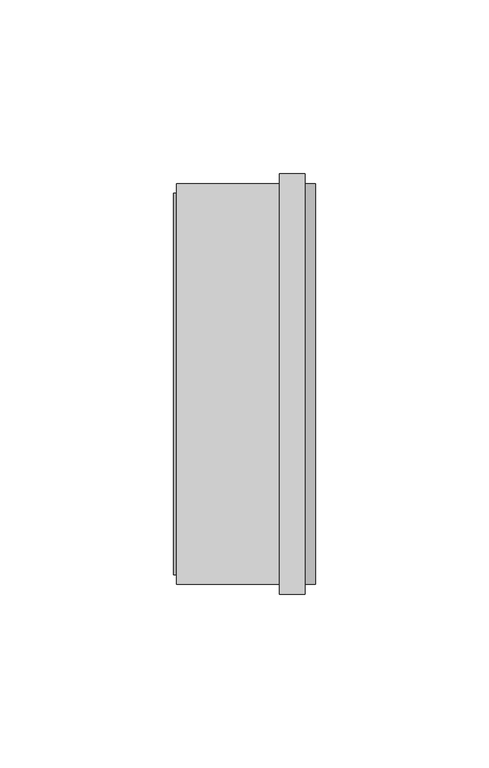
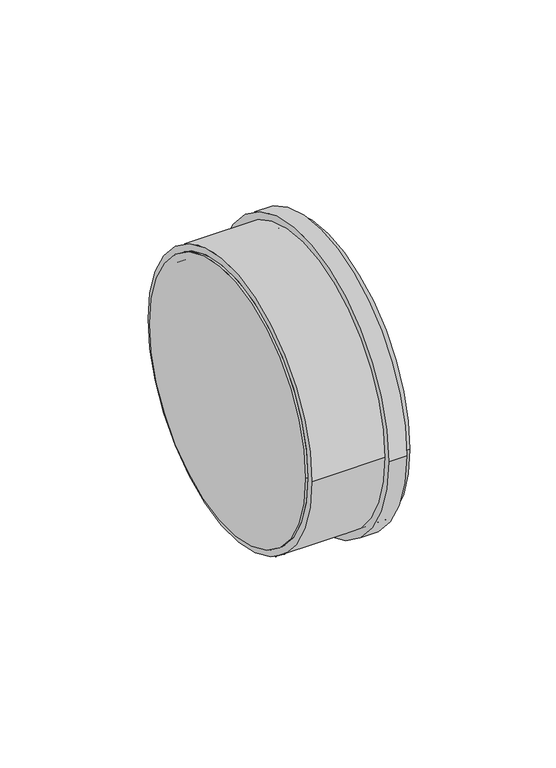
"""IFC4 building model written with IfcOpenShell, lengths in millimetres: pipe fitting geometry, Superdrain HTM-Plug : Superdrain HTM-Plug."""

from ifc_helpers import new_model, si_unit, point, frame, origin, origin_2d, place, context, project, spatial, polyline, circle_curve, trimmed, segment, composite_curve, outline, extrude, source, transform, mapped, element, save
from ifc_brep_helpers import plane_surface, cylinder_surface, revolved_surface, advanced_brep


def pipe_fitting_74035c22(model_context):
    return source(origin(), model_context, "Body", "SolidModel", [
        extrude(outline(composite_curve([segment(trimmed(circle_curve(origin_2d(), 57.75), [point((57.75, 0.0))], [point((-57.75, 0.0))], False, "CARTESIAN"), True, "CONTINUOUS"), segment(trimmed(circle_curve(origin_2d(), 57.75), [point((-57.75, 0.0))], [point((57.75, 0.0))], False, "CARTESIAN"), True, "CONTINUOUS")], self_intersect=False), holes=[composite_curve([segment(trimmed(circle_curve(origin_2d(), 55.0), [point((55.0, 0.0))], [point((-55.0, 0.0))], True, "CARTESIAN"), True, "CONTINUOUS"), segment(trimmed(circle_curve(origin_2d(), 55.0), [point((-55.0, 0.0))], [point((55.0, 0.0))], True, "CARTESIAN"), True, "CONTINUOUS")], self_intersect=False)]), frame((0.0, 0.0, 0.0), z_axis=(1.0, 0.0, 0.0), x_axis=(0.0, 1.0, 0.0)), (0.0, 0.0, 1.0), 37.0),
        extrude(outline(composite_curve([segment(trimmed(circle_curve(origin_2d(), 60.6375), [point((60.6375, 0.0))], [point((-60.6375, 0.0))], False, "CARTESIAN"), True, "CONTINUOUS"), segment(trimmed(circle_curve(origin_2d(), 60.6375), [point((-60.6375, 0.0))], [point((60.6375, 0.0))], False, "CARTESIAN"), True, "CONTINUOUS")], self_intersect=False), holes=[composite_curve([segment(trimmed(circle_curve(origin_2d(), 55.0), [point((55.0, 0.0))], [point((-55.0, 0.0))], True, "CARTESIAN"), True, "CONTINUOUS"), segment(trimmed(circle_curve(origin_2d(), 55.0), [point((-55.0, 0.0))], [point((55.0, 0.0))], True, "CARTESIAN"), True, "CONTINUOUS")], self_intersect=False)]), frame((29.6, 0.0, 0.0), z_axis=(1.0, 0.0, 0.0), x_axis=(0.0, 1.0, 0.0)), (0.0, 0.0, 1.0), 7.4),
        extrude(outline(composite_curve([segment(trimmed(circle_curve(origin_2d(), 55.0), [point((55.0, 0.0))], [point((-55.0, 0.0))], False, "CARTESIAN"), True, "CONTINUOUS"), segment(trimmed(circle_curve(origin_2d(), 55.0), [point((-55.0, 0.0))], [point((55.0, 0.0))], False, "CARTESIAN"), True, "CONTINUOUS")], self_intersect=False)), frame((-1.0, 0.0, 0.0), z_axis=(1.0, 0.0, 0.0), x_axis=(0.0, 1.0, 0.0)), (0.0, 0.0, 1.0), 1.0),
        advanced_brep(
        [(0.0, -55.0, 0.0), (0.0, 55.0, 0.0), (0.0, 52.25, 0.0), (0.0, -52.25, 0.0), (40.0, -55.0, 0.0), (40.0, 55.0, 0.0), (37.0, -52.25, 0.0), (37.0, 52.25, 0.0)],
        [
            (0, 1, circle_curve(frame((0.0, 0.0, 0.0), z_axis=(-1.0, 0.0, 0.0), x_axis=(0.0, 1.0, 0.0)), 55.0)),
            (1, 0, circle_curve(frame((0.0, 0.0, 0.0), z_axis=(-1.0, 0.0, 0.0), x_axis=(0.0, 1.0, 0.0)), 55.0)),
            (2, 3, circle_curve(frame((0.0, 0.0, 0.0), z_axis=(1.0, 0.0, 0.0), x_axis=(0.0, 1.0, 0.0)), 52.25)),
            (3, 2, circle_curve(frame((0.0, 0.0, 0.0), z_axis=(1.0, 0.0, 0.0), x_axis=(0.0, 1.0, 0.0)), 52.25)),
            (4, 5, circle_curve(frame((40.0, 0.0, 0.0), z_axis=(1.0, 0.0, 0.0), x_axis=(0.0, 1.0, 0.0)), 55.0)),
            (5, 4, circle_curve(frame((40.0, 0.0, 0.0), z_axis=(1.0, 0.0, 0.0), x_axis=(0.0, 1.0, 0.0)), 55.0)),
            (0, 4),
            (5, 1),
            (6, 7, circle_curve(frame((37.0, 0.0, 0.0), z_axis=(-1.0, 0.0, 0.0), x_axis=(0.0, 1.0, 0.0)), 52.25)),
            (7, 6, circle_curve(frame((37.0, 0.0, 0.0), z_axis=(-1.0, 0.0, 0.0), x_axis=(0.0, 1.0, 0.0)), 52.25)),
            (6, 3),
            (2, 7),
        ],
        [
            plane_surface(frame((0.0, 0.0, 0.0), z_axis=(-1.0, 0.0, 0.0), x_axis=(0.0, 0.0, 1.0))),
            plane_surface(frame((40.0, 0.0, 0.0), z_axis=(1.0, 0.0, 0.0), x_axis=(0.0, 0.0, 1.0))),
            cylinder_surface(frame((0.0, 0.0, 0.0), z_axis=(-1.0, 0.0, 0.0), x_axis=(0.0, 1.0, 0.0)), 55.0),
            plane_surface(frame((37.0, 0.0, 0.0), z_axis=(-1.0, 0.0, 0.0), x_axis=(0.0, 0.0, 1.0))),
            revolved_surface(polyline([(0.0, 52.25, 0.0), (37.0, 52.25, 0.0)]), (-3.0, 0.0, 0.0), (-1.0, 0.0, 0.0)),
        ],
        [
            (0, [[1, 2], [3, 4]]),
            (1, [[5, 6]]),
            (2, [[-1, 7, -6, 8]]),
            (2, [[-2, -8, -5, -7]]),
            (3, [[9, 10]]),
            (4, [[-9, 11, -3, 12]]),
            (4, [[-10, -12, -4, -11]]),
        ],
    ),
        extrude(outline(composite_curve([segment(trimmed(circle_curve(origin_2d(), 57.75), [point((-57.75, 0.0))], [point((57.75, 0.0))], False, "CARTESIAN"), True, "CONTINUOUS"), segment(trimmed(circle_curve(origin_2d(), 57.75), [point((57.75, 0.0))], [point((-57.75, 0.0))], False, "CARTESIAN"), True, "CONTINUOUS")], self_intersect=False)), frame((37.0, 0.0, 0.0), z_axis=(1.0, 0.0, 0.0), x_axis=(0.0, 1.0, 0.0)), (0.0, 0.0, 1.0), 3.0),
    ])


if __name__ == "__main__":
    model = new_model("IFC4")
    model_context = context("Model", 3, world=origin())
    ifc_project = project(units=[si_unit("LENGTHUNIT", "METRE", prefix="MILLI")], contexts=[model_context])
    site = spatial("IfcSite", under=ifc_project)
    building = spatial("IfcBuilding", under=site)
    placement = place(None, origin())
    pipe_fitting_shape = pipe_fitting_74035c22(model_context)
    element("IfcPipeFitting", 1, ObjectType="Superdrain HTM-Plug : Superdrain HTM-Plug", at=placement, inside=building, context=model_context, shape_type="MappedRepresentation", body=[
        mapped(pipe_fitting_shape, transform((0.0, 0.0, 0.0), x_axis=(1.0, 0.0, 0.0), y_axis=(0.0, 1.0, 0.0), z_axis=(0.0, 0.0, 1.0))),
    ])
    save(model, "model.ifc")
